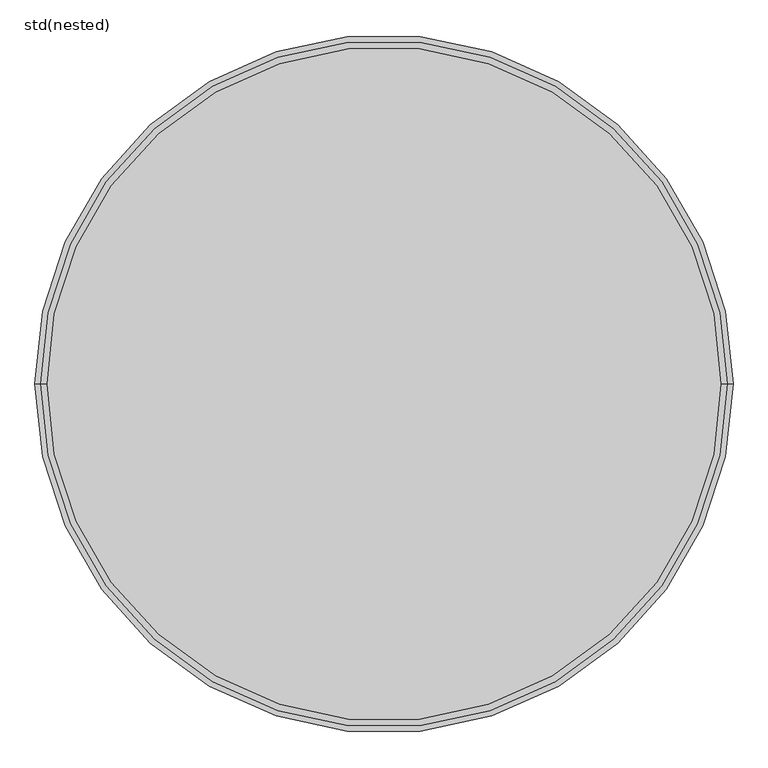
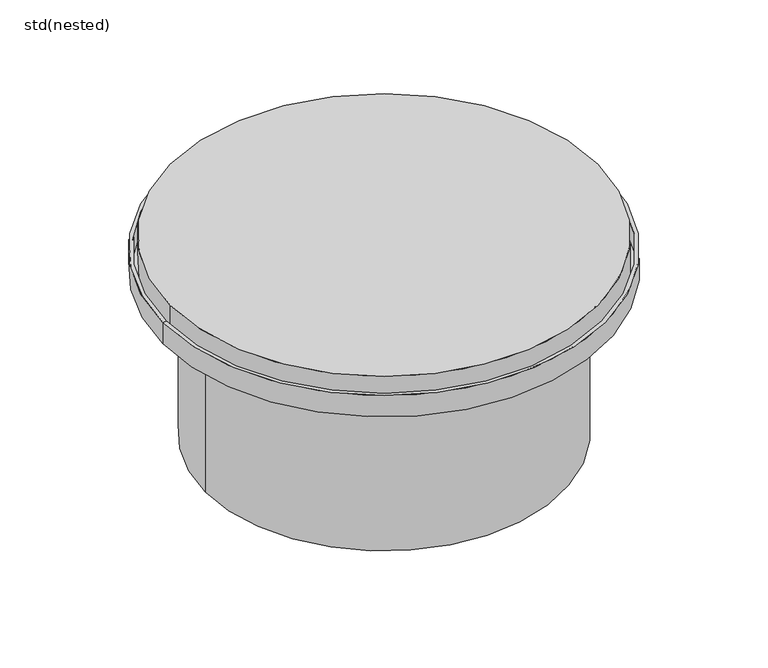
"""IFC4 building model written with IfcOpenShell, lengths in millimetres: unitary equipment geometry, ZZZ_do not use_ME_ST_WPB_top sections_plastic_ACO : std(nested)."""

from ifc_helpers import new_model, si_unit, point, frame, origin, origin_2d, place, context, project, spatial, polyline, circle_curve, trimmed, segment, composite_curve, outline, extrude, source, transform, mapped, element, save
from ifc_brep_helpers import plane_surface, cylinder_surface, revolved_surface, advanced_brep


def std_nested_3a5789ee(model_context):
    return source(origin(), model_context, "Body", "SolidModel", [
        advanced_brep(
        [(-510.0, 0.0, -35.0), (510.0, 0.0, -35.0), (518.0, 0.0, -35.0), (-518.0, 0.0, -35.0), (-510.0, 0.0, -80.0), (510.0, 0.0, -80.0), (-410.0, 0.0, -80.0), (410.0, 0.0, -80.0), (-410.0, 0.0, -490.0), (410.0, 0.0, -490.0), (-418.0, 0.0, -490.0), (418.0, 0.0, -490.0), (-418.0, 0.0, -88.0), (418.0, 0.0, -88.0), (-518.0, 0.0, -88.0), (518.0, 0.0, -88.0)],
        [
            (0, 1, circle_curve(frame((0.0, 0.0, -35.0), z_axis=(0.0, 0.0, -1.0), x_axis=(1.0, 0.0, 0.0)), 510.0)),
            (1, 2),
            (2, 3, circle_curve(frame((0.0, 0.0, -35.0), z_axis=(0.0, 0.0, 1.0), x_axis=(1.0, 0.0, 0.0)), 518.0)),
            (3, 0),
            (1, 0, circle_curve(frame((0.0, 0.0, -35.0), z_axis=(0.0, 0.0, -1.0), x_axis=(1.0, 0.0, 0.0)), 510.0)),
            (3, 2, circle_curve(frame((0.0, 0.0, -35.0), z_axis=(0.0, 0.0, 1.0), x_axis=(1.0, 0.0, 0.0)), 518.0)),
            (4, 5, circle_curve(frame((0.0, 0.0, -80.0), z_axis=(0.0, 0.0, -1.0), x_axis=(1.0, 0.0, 0.0)), 510.0)),
            (5, 1),
            (0, 4),
            (5, 4, circle_curve(frame((0.0, 0.0, -80.0), z_axis=(0.0, 0.0, -1.0), x_axis=(1.0, 0.0, 0.0)), 510.0)),
            (6, 7, circle_curve(frame((0.0, 0.0, -80.0), z_axis=(0.0, 0.0, -1.0), x_axis=(1.0, 0.0, 0.0)), 410.0)),
            (7, 5),
            (4, 6),
            (7, 6, circle_curve(frame((0.0, 0.0, -80.0), z_axis=(0.0, 0.0, -1.0), x_axis=(1.0, 0.0, 0.0)), 410.0)),
            (8, 9, circle_curve(frame((0.0, 0.0, -490.0), z_axis=(0.0, 0.0, -1.0), x_axis=(1.0, 0.0, 0.0)), 410.0)),
            (9, 7),
            (6, 8),
            (9, 8, circle_curve(frame((0.0, 0.0, -490.0), z_axis=(0.0, 0.0, -1.0), x_axis=(1.0, 0.0, 0.0)), 410.0)),
            (10, 11, circle_curve(frame((0.0, 0.0, -490.0), z_axis=(0.0, 0.0, -1.0), x_axis=(1.0, 0.0, 0.0)), 418.0)),
            (11, 9),
            (8, 10),
            (11, 10, circle_curve(frame((0.0, 0.0, -490.0), z_axis=(0.0, 0.0, -1.0), x_axis=(1.0, 0.0, 0.0)), 418.0)),
            (12, 13, circle_curve(frame((0.0, 0.0, -88.0), z_axis=(0.0, 0.0, -1.0), x_axis=(1.0, 0.0, 0.0)), 418.0)),
            (13, 11),
            (10, 12),
            (13, 12, circle_curve(frame((0.0, 0.0, -88.0), z_axis=(0.0, 0.0, -1.0), x_axis=(1.0, 0.0, 0.0)), 418.0)),
            (14, 15, circle_curve(frame((0.0, 0.0, -88.0), z_axis=(0.0, 0.0, -1.0), x_axis=(1.0, 0.0, 0.0)), 518.0)),
            (15, 13),
            (12, 14),
            (15, 14, circle_curve(frame((0.0, 0.0, -88.0), z_axis=(0.0, 0.0, -1.0), x_axis=(1.0, 0.0, 0.0)), 518.0)),
            (2, 15),
            (14, 3),
        ],
        [
            plane_surface(frame((0.0, 0.0, -35.0), z_axis=(0.0, 0.0, 1.0), x_axis=(1.0, 0.0, 0.0))),
            revolved_surface(polyline([(510.0, 0.0, -35.0), (510.0, 0.0, -80.0)]), (0.0, 0.0, 240.0), (0.0, 0.0, 1.0)),
            plane_surface(frame((0.0, 0.0, -80.0), z_axis=(0.0, 0.0, 1.0), x_axis=(1.0, 0.0, 0.0))),
            revolved_surface(polyline([(410.0, 0.0, -80.0), (410.0, 0.0, -490.0)]), (0.0, 0.0, 240.0), (0.0, 0.0, 1.0)),
            plane_surface(frame((0.0, 0.0, -490.0), z_axis=(0.0, 0.0, -1.0), x_axis=(1.0, 0.0, 0.0))),
            cylinder_surface(frame((0.0, 0.0, 240.0), z_axis=(0.0, 0.0, 1.0), x_axis=(1.0, 0.0, 0.0)), 418.0),
            plane_surface(frame((0.0, 0.0, -88.0), z_axis=(0.0, 0.0, -1.0), x_axis=(1.0, 0.0, 0.0))),
            cylinder_surface(frame((0.0, 0.0, 240.0), z_axis=(0.0, 0.0, 1.0), x_axis=(1.0, 0.0, 0.0)), 518.0),
        ],
        [
            (0, [[1, 2, 3, 4]]),
            (0, [[5, -4, 6, -2]]),
            (1, [[7, 8, -1, 9]]),
            (1, [[10, -9, -5, -8]]),
            (2, [[11, 12, -7, 13]]),
            (2, [[14, -13, -10, -12]]),
            (3, [[15, 16, -11, 17]]),
            (3, [[18, -17, -14, -16]]),
            (4, [[19, 20, -15, 21]]),
            (4, [[22, -21, -18, -20]]),
            (5, [[23, 24, -19, 25]]),
            (5, [[26, -25, -22, -24]]),
            (6, [[27, 28, -23, 29]]),
            (6, [[30, -29, -26, -28]]),
            (7, [[-3, 31, -27, 32]]),
            (7, [[-6, -32, -30, -31]]),
        ],
    ),
        extrude(outline(composite_curve([segment(trimmed(circle_curve(origin_2d(), 500.0), [point((-500.0, 0.0))], [point((500.0, 0.0))], False, "CARTESIAN"), True, "CONTINUOUS"), segment(trimmed(circle_curve(origin_2d(), 500.0), [point((500.0, 0.0))], [point((-500.0, 0.0))], False, "CARTESIAN"), True, "CONTINUOUS")], self_intersect=False)), frame((0.0, 0.0, -80.0), z_axis=(0.0, 0.0, 1.0), x_axis=(1.0, 0.0, 0.0)), (0.0, 0.0, 1.0), 80.0),
    ])


if __name__ == "__main__":
    model = new_model("IFC4")
    model_context = context("Model", 3, world=origin())
    ifc_project = project(units=[si_unit("LENGTHUNIT", "METRE", prefix="MILLI")], contexts=[model_context])
    site = spatial("IfcSite", under=ifc_project)
    building = spatial("IfcBuilding", under=site)
    placement = place(None, origin())
    std_nested_shape = std_nested_3a5789ee(model_context)
    element("IfcUnitaryEquipment", 1, ObjectType="ZZZ_do not use_ME_ST_WPB_top sections_plastic_ACO : std(nested)", at=placement, inside=building, context=model_context, shape_type="MappedRepresentation", body=[
        mapped(std_nested_shape, transform((0.0, 0.0, 0.0), x_axis=(1.0, 0.0, 0.0), y_axis=(0.0, 1.0, 0.0), z_axis=(0.0, 0.0, 1.0))),
    ])
    save(model, "model.ifc")
